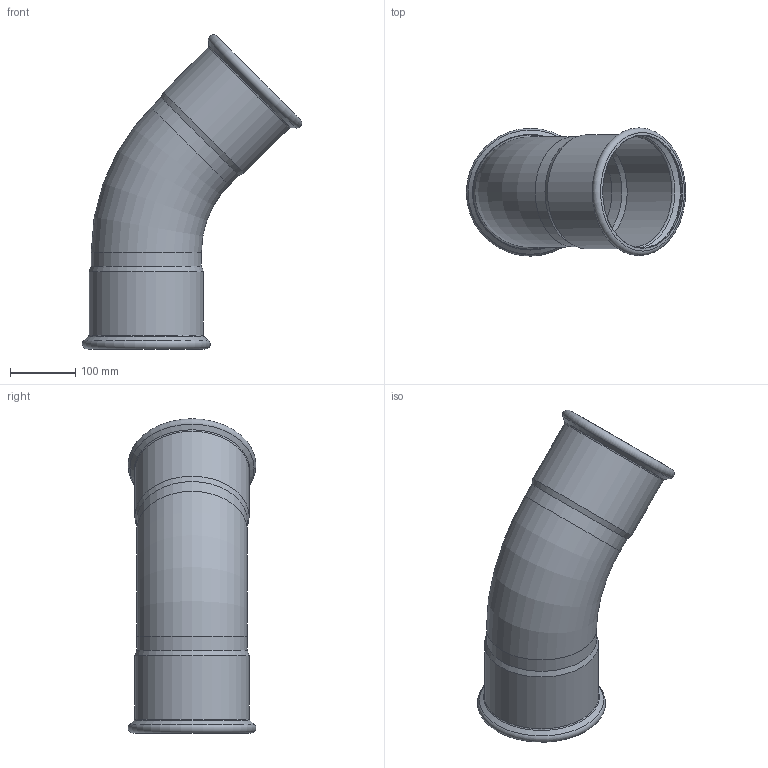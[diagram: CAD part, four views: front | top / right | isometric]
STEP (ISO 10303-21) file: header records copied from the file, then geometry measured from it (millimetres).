
FILE_DESCRIPTION((''),'2;1');
FILE_NAME('G:\Nirosan-Schmiedefeld\Technics\CAD\001 Serie 9.000\169_va\69041168H(0).stp','2020-10-06T08:06:46',('herberg'),(''),'Autodesk Inventor 2009','Autodesk Inventor 2009','');
FILE_SCHEMA(('AUTOMOTIVE_DESIGN { 1 0 10303 214 1 1 1 1 }'));
Length unit declared in the file: millimetre
Products named in the file (3): 69041168H(0); 69041168P(0); 69HM168P(0)
Assembly tree (3 placements, depth 2):
  69041168H(0)
    69041168P(0)
    69HM168P(0)  x2
Bounding box: 334.93 x 195.18 x 480.19 mm (x, y, z)
Volume: 692330.6 mm3; surface area: 540549.5 mm2
Topology: 3 solids, 3 shells, 38 faces, 72 edges, 38 vertices
Faces by surface type: cone 16, cylinder 8, torus 6, plane 4, bspline 4
Full cylindrical faces by diameter (mm): 163.1 x2, 168.3 x2, 169.3 x2, 174.5 x2
Entity records: 638 total; most frequent: CARTESIAN_POINT 193, DIRECTION 92, AXIS2_PLACEMENT_3D 46, ORIENTED_EDGE 42, EDGE_LOOP 42, VERTEX_POINT 21, CIRCLE 21, EDGE_CURVE 21
